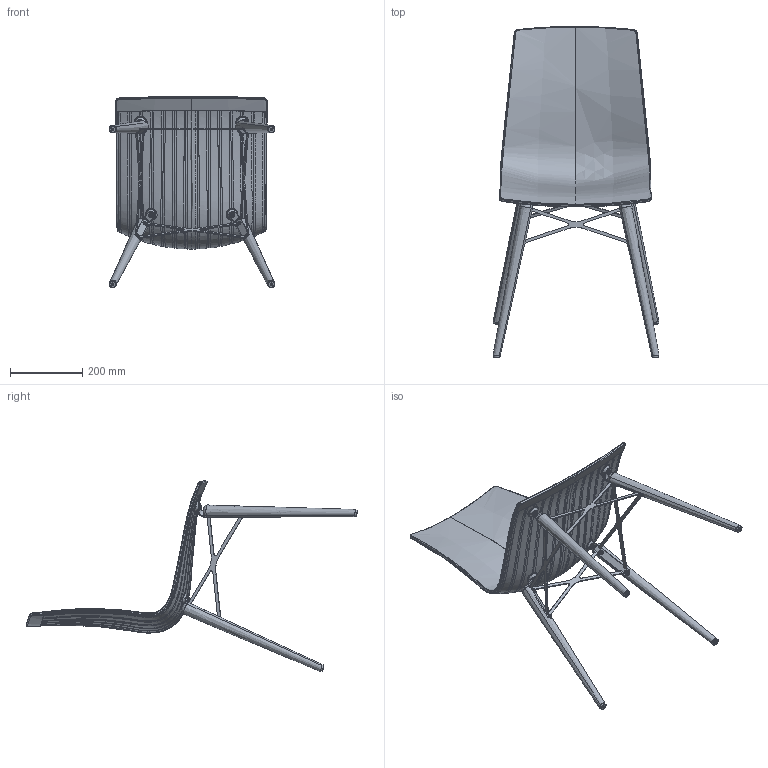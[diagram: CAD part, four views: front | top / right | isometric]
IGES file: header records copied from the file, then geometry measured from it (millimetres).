
Start section: SolidWorks IGES file using analytic representation for surfaces
Global section: file name: D:\SILMEYINIZ\IBRAHIM\Desktop\SW çizimler\Ahþap Ayak Tasarýmlarý\x-treme\X montaj.IGS; native system: SolidWorks 2011; preprocessor: SolidWorks 2011; author: ibrahim; date: 140718.142413; units: millimetre
Bounding box: 459.96 x 918.94 x 530.34 mm (x, y, z)
Surface area: 910582.6 mm2 (no closed solid volume)
Topology: 0 solids, 0 shells, 833 faces, 10284 edges, 10260 vertices
Faces by surface type: bspline 536, revolution 297
